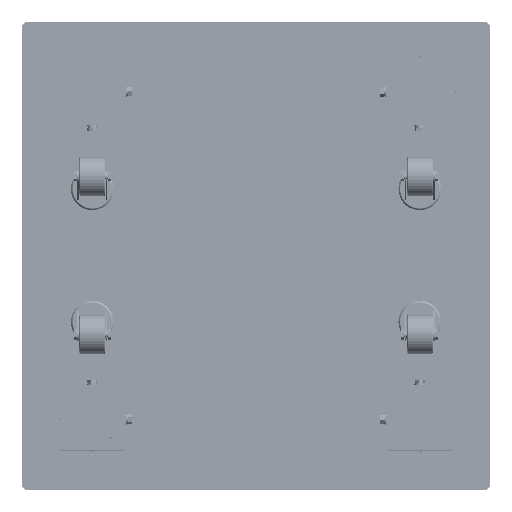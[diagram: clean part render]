
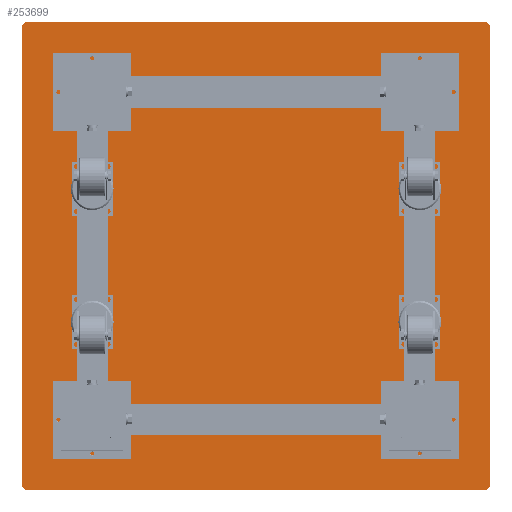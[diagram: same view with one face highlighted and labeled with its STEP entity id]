
A CAD part, top view. The second image highlights one B-rep face of the part: STEP entity #253699.
In plain terms, the highlighted planar face has unit normal (0, 0, 1).
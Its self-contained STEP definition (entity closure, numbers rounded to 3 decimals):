
#2308 = CARTESIAN_POINT ( 'NONE',  ( 139.988, 524.694, 1275.5 ) ) ;
#4294 = LINE ( 'NONE', #165920, #230518 ) ;
#7964 = DIRECTION ( 'NONE',  ( 1., 0., 0. ) ) ;
#8134 = PLANE ( 'NONE',  #283102 ) ;
#13810 = CARTESIAN_POINT ( 'NONE',  ( 139.988, 534.694, 1275.5 ) ) ;
#14835 = VERTEX_POINT ( 'NONE', #131561 ) ;
#16456 = DIRECTION ( 'NONE',  ( 0., 0., 1. ) ) ;
#17018 = VERTEX_POINT ( 'NONE', #173991 ) ;
#20178 = AXIS2_PLACEMENT_3D ( 'NONE', #174117, #89446, #286913 ) ;
#24503 = VERTEX_POINT ( 'NONE', #142031 ) ;
#28876 = CIRCLE ( 'NONE', #232661, 10. ) ;
#32608 = VECTOR ( 'NONE', #291119, 1000. ) ;
#39080 = DIRECTION ( 'NONE',  ( 0., 0., 1. ) ) ;
#43583 = EDGE_CURVE ( 'NONE', #17018, #24503, #92773, .T. ) ;
#54546 = DIRECTION ( 'NONE',  ( 1., 0., 0. ) ) ;
#62417 = DIRECTION ( 'NONE',  ( 1., 0., 0. ) ) ;
#67165 = ORIENTED_EDGE ( 'NONE', *, *, #165526, .T. ) ;
#68964 = CARTESIAN_POINT ( 'NONE',  ( -760.012, 534.694, 1275.5 ) ) ;
#77810 = CARTESIAN_POINT ( 'NONE',  ( -310.012, 84.694, 1275.5 ) ) ;
#79171 = ORIENTED_EDGE ( 'NONE', *, *, #217189, .T. ) ;
#81733 = VERTEX_POINT ( 'NONE', #197863 ) ;
#84930 = LINE ( 'NONE', #13810, #32608 ) ;
#89446 = DIRECTION ( 'NONE',  ( 0., 0., 1. ) ) ;
#91922 = CARTESIAN_POINT ( 'NONE',  ( 129.988, 534.694, 1275.5 ) ) ;
#92216 = EDGE_CURVE ( 'NONE', #246568, #17018, #4294, .T. ) ;
#92773 = CIRCLE ( 'NONE', #116463, 10. ) ;
#98576 = DIRECTION ( 'NONE',  ( 1., 0., 0. ) ) ;
#101298 = ORIENTED_EDGE ( 'NONE', *, *, #239140, .T. ) ;
#116463 = AXIS2_PLACEMENT_3D ( 'NONE', #166668, #212642, #7964 ) ;
#119442 = CIRCLE ( 'NONE', #20178, 10. ) ;
#123120 = ORIENTED_EDGE ( 'NONE', *, *, #262548, .T. ) ;
#128041 = DIRECTION ( 'NONE',  ( 1., 0., 0. ) ) ;
#131561 = CARTESIAN_POINT ( 'NONE',  ( 129.988, -365.306, 1275.5 ) ) ;
#142031 = CARTESIAN_POINT ( 'NONE',  ( -750.012, -365.306, 1275.5 ) ) ;
#149085 = VECTOR ( 'NONE', #159441, 1000. ) ;
#149386 = CARTESIAN_POINT ( 'NONE',  ( -760.012, -365.306, 1275.5 ) ) ;
#154284 = ORIENTED_EDGE ( 'NONE', *, *, #193900, .T. ) ;
#156892 = CIRCLE ( 'NONE', #270680, 10. ) ;
#159441 = DIRECTION ( 'NONE',  ( -1., 0., 0. ) ) ;
#165526 = EDGE_CURVE ( 'NONE', #14835, #201676, #156892, .T. ) ;
#165920 = CARTESIAN_POINT ( 'NONE',  ( -760.012, 534.694, 1275.5 ) ) ;
#166668 = CARTESIAN_POINT ( 'NONE',  ( -750.012, -355.306, 1275.5 ) ) ;
#170160 = CARTESIAN_POINT ( 'NONE',  ( 139.988, -355.306, 1275.5 ) ) ;
#173991 = CARTESIAN_POINT ( 'NONE',  ( -760.012, -355.306, 1275.5 ) ) ;
#174046 = CARTESIAN_POINT ( 'NONE',  ( 129.988, 524.694, 1275.5 ) ) ;
#174117 = CARTESIAN_POINT ( 'NONE',  ( -750.012, 524.694, 1275.5 ) ) ;
#179764 = EDGE_LOOP ( 'NONE', ( #101298, #123120, #235392, #269630, #79171, #67165, #154284, #181658 ) ) ;
#181658 = ORIENTED_EDGE ( 'NONE', *, *, #233420, .T. ) ;
#182323 = DIRECTION ( 'NONE',  ( 0., -1., 0. ) ) ;
#183782 = VECTOR ( 'NONE', #54546, 1000. ) ;
#193900 = EDGE_CURVE ( 'NONE', #201676, #216167, #84930, .T. ) ;
#197863 = CARTESIAN_POINT ( 'NONE',  ( -750.012, 534.694, 1275.5 ) ) ;
#201676 = VERTEX_POINT ( 'NONE', #170160 ) ;
#202528 = LINE ( 'NONE', #68964, #149085 ) ;
#210749 = CARTESIAN_POINT ( 'NONE',  ( -760.012, 524.694, 1275.5 ) ) ;
#212642 = DIRECTION ( 'NONE',  ( 0., 0., 1. ) ) ;
#212828 = DIRECTION ( 'NONE',  ( 0., 0., 1. ) ) ;
#216167 = VERTEX_POINT ( 'NONE', #2308 ) ;
#217189 = EDGE_CURVE ( 'NONE', #24503, #14835, #263678, .T. ) ;
#219712 = CARTESIAN_POINT ( 'NONE',  ( 129.988, -355.306, 1275.5 ) ) ;
#230518 = VECTOR ( 'NONE', #182323, 1000. ) ;
#232661 = AXIS2_PLACEMENT_3D ( 'NONE', #174046, #39080, #128041 ) ;
#233420 = EDGE_CURVE ( 'NONE', #216167, #259859, #28876, .T. ) ;
#233667 = FACE_OUTER_BOUND ( 'NONE', #179764, .T. ) ;
#235392 = ORIENTED_EDGE ( 'NONE', *, *, #92216, .T. ) ;
#239140 = EDGE_CURVE ( 'NONE', #259859, #81733, #202528, .T. ) ;
#246568 = VERTEX_POINT ( 'NONE', #210749 ) ;
#253699 = ADVANCED_FACE ( 'NONE', ( #233667 ), #8134, .T. ) ;
#259859 = VERTEX_POINT ( 'NONE', #91922 ) ;
#262548 = EDGE_CURVE ( 'NONE', #81733, #246568, #119442, .T. ) ;
#263678 = LINE ( 'NONE', #149386, #183782 ) ;
#269630 = ORIENTED_EDGE ( 'NONE', *, *, #43583, .T. ) ;
#270680 = AXIS2_PLACEMENT_3D ( 'NONE', #219712, #16456, #62417 ) ;
#283102 = AXIS2_PLACEMENT_3D ( 'NONE', #77810, #212828, #98576 ) ;
#286913 = DIRECTION ( 'NONE',  ( 1., 0., 0. ) ) ;
#291119 = DIRECTION ( 'NONE',  ( 0., 1., 0. ) ) ;
